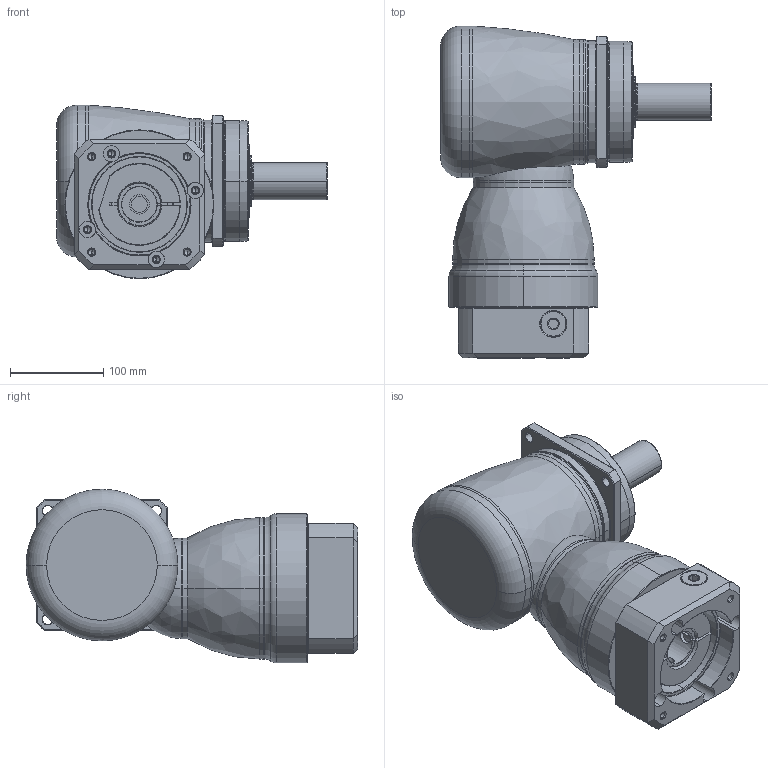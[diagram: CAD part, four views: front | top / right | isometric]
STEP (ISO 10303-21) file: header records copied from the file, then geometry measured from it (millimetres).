
FILE_DESCRIPTION((''),'2;1');
FILE_NAME('KF140_1ST_38-P0409900101_ASM','2016-06-22T',('d01943'),(''),'PRO/ENGINEER BY PARAMETRIC TECHNOLOGY CORPORATION, 2008410','PRO/ENGINEER BY PARAMETRIC TECHNOLOGY CORPORATION, 2008410','');
FILE_SCHEMA(('CONFIG_CONTROL_DESIGN'));
Length unit declared in the file: millimetre
Products named in the file (11): P1008500002; P1804500001; P0915500001; P1315500001; P1007500001; P1318500401; P0409900101; P0503900012; P0912504201; 21711422019; KF140_1ST_38-P0409900101_ASM
Assembly tree (10 placements, depth 2):
  KF140_1ST_38-P0409900101_ASM
    P1008500002
    P1804500001
    P0915500001
    P1315500001
    P1007500001
    P1318500401
    P0409900101
    P0503900012
    P0912504201
    21711422019
Bounding box: 291 x 356.5 x 186.5 mm (x, y, z)
Volume: 4983760.6 mm3; surface area: 567462.1 mm2
Topology: 11 solids, 11 shells, 466 faces, 1059 edges, 632 vertices
Faces by surface type: cylinder 156, cone 126, plane 99, torus 62, bspline 21, sphere 2
Entity records: 18124 total; most frequent: CARTESIAN_POINT 7379, DIRECTION 2375, ORIENTED_EDGE 2082, EDGE_CURVE 1041, AXIS2_PLACEMENT_3D 1008, VERTEX_POINT 632, CIRCLE 542, EDGE_LOOP 535
